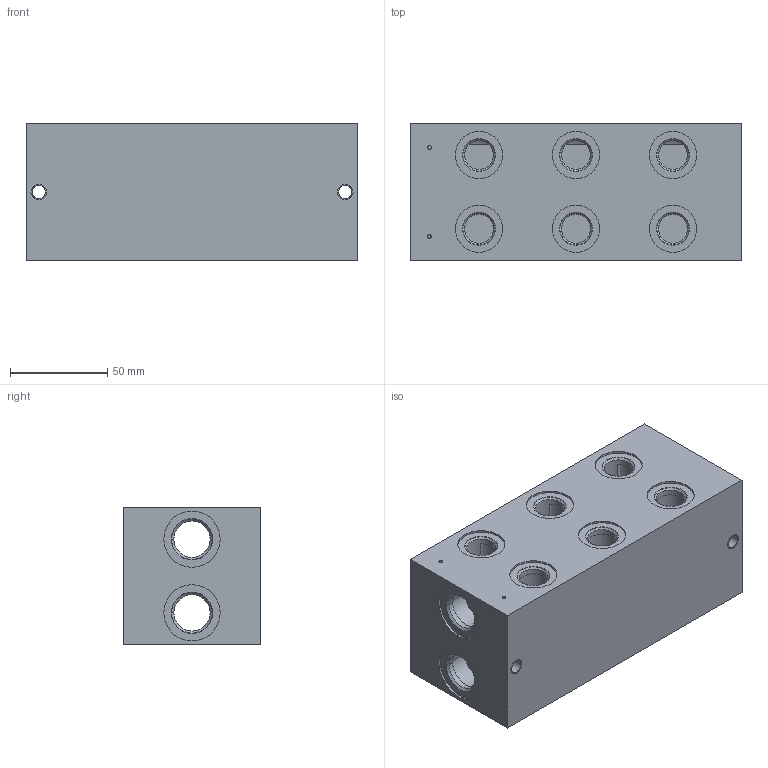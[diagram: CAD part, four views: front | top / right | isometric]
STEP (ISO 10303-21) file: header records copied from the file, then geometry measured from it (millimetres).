
FILE_DESCRIPTION((''),'2;1');
FILE_NAME('27562800','2015-11-27T',('Ahcz.brigadnik05'),(''),'PRO/ENGINEER BY PARAMETRIC TECHNOLOGY CORPORATION, 2015110','PRO/ENGINEER BY PARAMETRIC TECHNOLOGY CORPORATION, 2015110','');
FILE_SCHEMA(('AUTOMOTIVE_DESIGN { 1 0 10303 214 1 1 1 1 }'));
Length unit declared in the file: millimetre
Products named in the file (1): 27562800
Bounding box: 171 x 71 x 71 mm (x, y, z)
Volume: 294279.7 mm3; surface area: 118616.2 mm2
Topology: 1 solids, 29 shells, 249 faces, 973 edges, 937 vertices
Faces by surface type: cylinder 166, plane 54, cone 29
Entity records: 14145 total; most frequent: CARTESIAN_POINT 2707, DIRECTION 1812, ORIENTED_EDGE 1248, PRESENTATION_STYLE_ASSIGNMENT 1034, STYLED_ITEM 1034, CURVE_STYLE 999, EDGE_CURVE 680, AXIS2_PLACEMENT_3D 640
